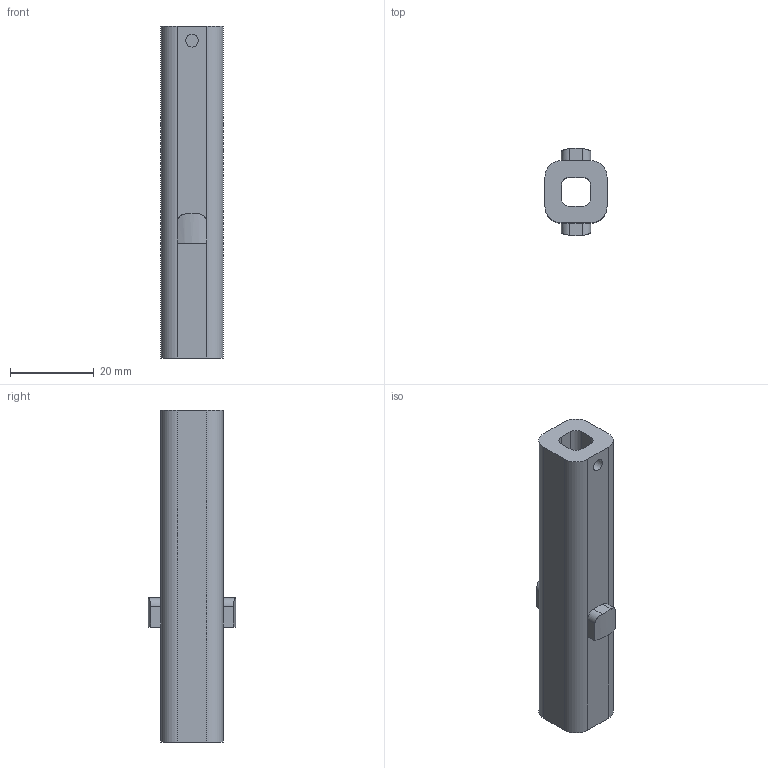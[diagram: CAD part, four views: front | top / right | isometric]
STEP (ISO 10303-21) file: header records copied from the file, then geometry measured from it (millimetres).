
FILE_DESCRIPTION(/* description */ (''),/* implementation_level */ '2;1');
FILE_NAME(/* name */ 'LAST_Grip 06.stp',/* time_stamp */ '2025-11-19T23:10:07+09:00',/* author */ (''),/* organization */ (''),/* preprocessor_version */ 'ST-DEVELOPER v11',/* originating_system */ 'SIEMENS PLM Software NX 7.5',/* authorisation */ '');
FILE_SCHEMA (('CONFIG_CONTROL_DESIGN'));
Length unit declared in the file: millimetre
Products named in the file (1): gyun8741ysfb
Bounding box: 14.9 x 21 x 79.5 mm (x, y, z)
Volume: 13028.5 mm3; surface area: 6879.1 mm2
Topology: 1 solids, 1 shells, 40 faces, 102 edges, 65 vertices
Faces by surface type: plane 23, cylinder 17
Full cylindrical faces by diameter (mm): 3 x3
Entity records: 1322 total; most frequent: CARTESIAN_POINT 262, DIRECTION 208, ORIENTED_EDGE 194, EDGE_CURVE 97, AXIS2_PLACEMENT_3D 73, VERTEX_POINT 63, LINE 62, VECTOR 62
